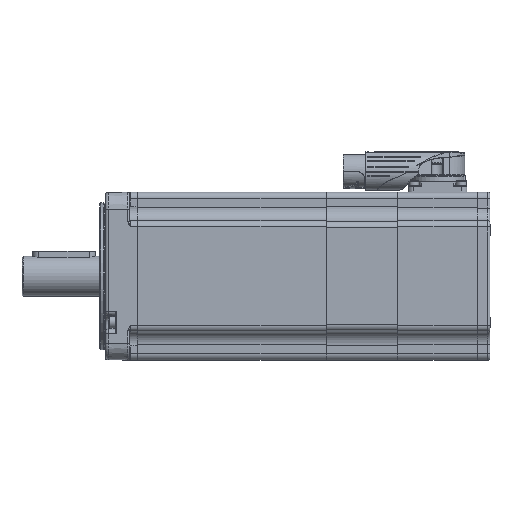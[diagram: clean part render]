
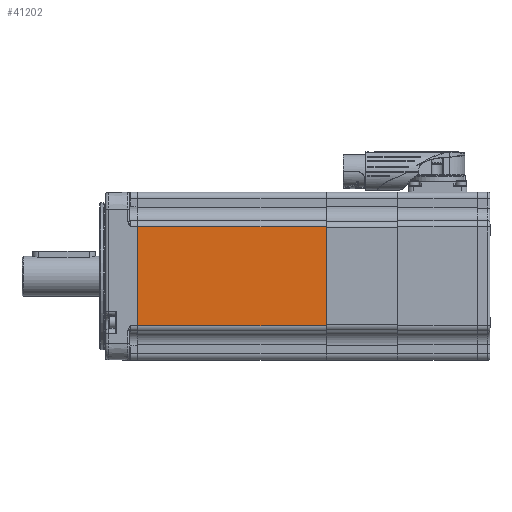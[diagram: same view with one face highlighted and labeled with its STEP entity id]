
A CAD part, left-side view. The second image highlights one B-rep face of the part: STEP entity #41202.
In plain terms, the highlighted planar face has unit normal (-1, 0, 0) as drawn and (0, -1, 0) by its records, which use the part's own axes.
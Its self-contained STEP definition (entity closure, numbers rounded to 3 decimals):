
#4880=LINE('',#106588,#7302);
#4888=LINE('',#106639,#7310);
#4895=LINE('',#106690,#7317);
#4896=LINE('',#106691,#7318);
#7302=VECTOR('',#70463,1000.);
#7310=VECTOR('',#70507,1000.);
#7317=VECTOR('',#70560,1000.);
#7318=VECTOR('',#70561,1000.);
#8375=PLANE('',#60729);
#18455=ORIENTED_EDGE('',*,*,#25328,.T.);
#18456=ORIENTED_EDGE('',*,*,#25306,.T.);
#18457=ORIENTED_EDGE('',*,*,#25329,.T.);
#18458=ORIENTED_EDGE('',*,*,#25281,.T.);
#25281=EDGE_CURVE('',#29462,#29461,#4880,.T.);
#25306=EDGE_CURVE('',#29487,#29486,#4888,.T.);
#25328=EDGE_CURVE('',#29461,#29487,#4895,.F.);
#25329=EDGE_CURVE('',#29486,#29462,#4896,.F.);
#29461=VERTEX_POINT('',#106587);
#29462=VERTEX_POINT('',#106589);
#29486=VERTEX_POINT('',#106638);
#29487=VERTEX_POINT('',#106640);
#34476=EDGE_LOOP('',(#18455,#18456,#18457,#18458));
#37690=FACE_BOUND('',#34476,.T.);
#41202=ADVANCED_FACE('',(#37690),#8375,.T.);
#60729=AXIS2_PLACEMENT_3D('',#106689,#70558,#70559);
#70463=DIRECTION('',(0.,0.,-1.));
#70507=DIRECTION('',(0.,0.,1.));
#70558=DIRECTION('',(0.,-1.,0.));
#70559=DIRECTION('',(0.,0.,-1.));
#70560=DIRECTION('',(-1.,0.,0.));
#70561=DIRECTION('',(1.,0.,0.));
#106587=CARTESIAN_POINT('',(-91.,-40.,-23.5));
#106588=CARTESIAN_POINT('',(-91.,-40.,40.));
#106589=CARTESIAN_POINT('',(-91.,-40.,23.5));
#106638=CARTESIAN_POINT('',(-1.,-40.,23.5));
#106639=CARTESIAN_POINT('',(-1.,-40.,40.));
#106640=CARTESIAN_POINT('',(-1.,-40.,-23.5));
#106689=CARTESIAN_POINT('',(-200.,-40.,40.));
#106690=CARTESIAN_POINT('',(0.,-40.,-23.5));
#106691=CARTESIAN_POINT('',(-200.,-40.,23.5));
